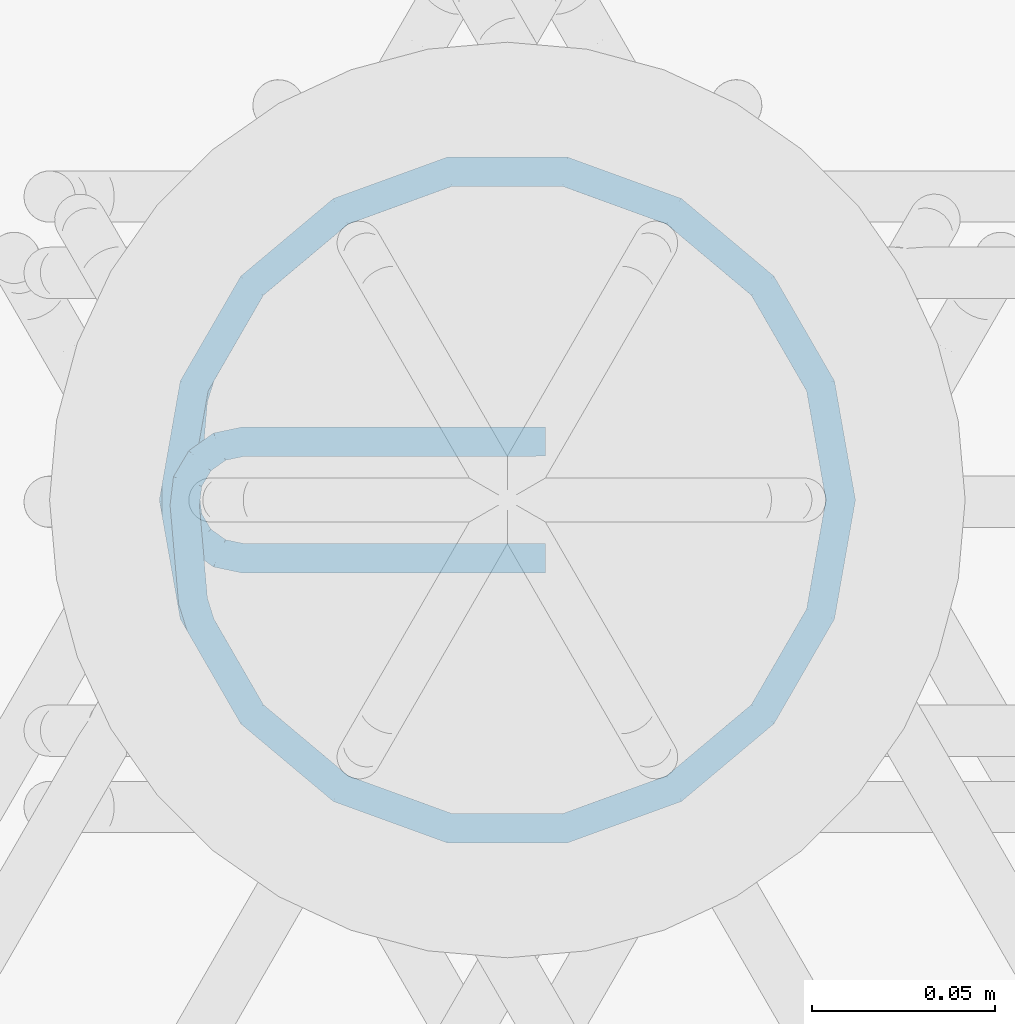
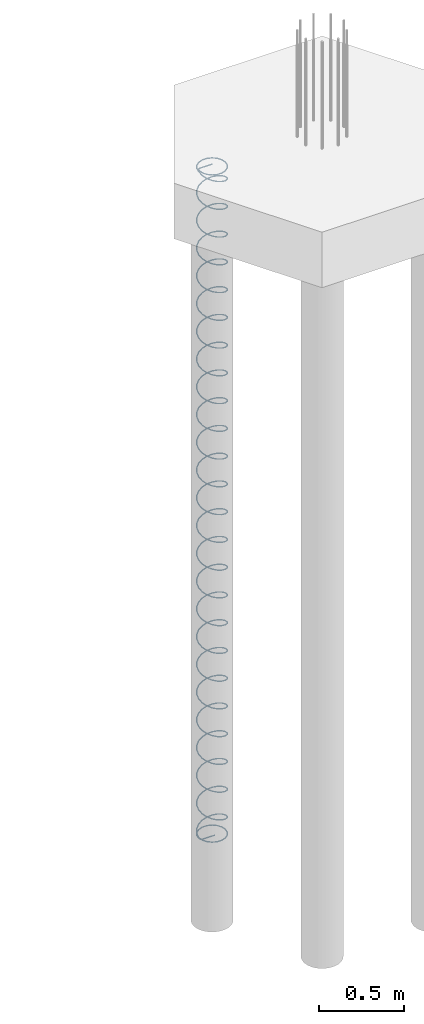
# One storey, part 10 of 23: 1 reinforcing bar.
"""IFC2X3 building model written with IfcOpenShell, lengths in metres."""

from ifc_helpers import new_model, entity, si_unit, direction, frame, origin, place, context, subcontext, project, spatial, shape, source, transform, mapped, element, save


model = new_model("IFC2X3")

# Units and contexts
model_context = context("Model", 3, precision=0.0, world=origin(), true_north=direction((0.0, 1.0)))
plan_context = context("Plan", 3, precision=0.0, world=origin(), true_north=direction((0.0, 1.0)))
body_context = subcontext(model_context, "Body", "Model", "MODEL_VIEW", scale=1.0)
ifc_project = project(units=[si_unit("LENGTHUNIT", "METRE"), si_unit("AREAUNIT", "SQUARE_METRE"), si_unit("VOLUMEUNIT", "CUBIC_METRE"), si_unit("PLANEANGLEUNIT", "RADIAN"), si_unit("THERMODYNAMICTEMPERATUREUNIT", "DEGREE_CELSIUS"), si_unit("FORCEUNIT", "NEWTON"), si_unit("MASSUNIT", "GRAM", prefix="KILO")], contexts=[model_context, plan_context])

# Site, building, storey
placement = place(None, origin())
site = spatial("IfcSite", under=ifc_project, at=placement, Name="Default Site", CompositionType="ELEMENT")
building = spatial("IfcBuilding", under=site, at=placement, Name="Default Building", CompositionType="ELEMENT")
storey_placement = place(placement, frame((0.0, 0.0, 0.0), z_axis=(1.0, 0.0, 0.0), x_axis=(0.0, 0.0, 1.0)))
storey = spatial("IfcBuildingStorey", under=building, at=storey_placement, Name="Piano 0", CompositionType="ELEMENT", Elevation=0.0)

# Reinforcing bar
shared_shape = source(origin(), body_context, None, "AdvancedSweptSolid", [
    entity("IfcSweptDiskSolid", entity("IfcCompositeCurve", [entity("IfcCompositeCurveSegment", "CONTINUOUS", True, entity("IfcPolyline", [entity("IfcCartesianPoint", [0.0, 0.0, 0.0]), entity("IfcCartesianPoint", [-0.08255, 0.0, 0.0]), entity("IfcCartesianPoint", [-0.088992, -0.001354, -1.3e-05]), entity("IfcCartesianPoint", [-0.094343, -0.005186, -4.9e-05]), entity("IfcCartesianPoint", [-0.097699, -0.010849, -0.000103]), entity("IfcCartesianPoint", [-0.09849, -0.017383, -0.000164]), entity("IfcCartesianPoint", [-0.096222, -0.043503, -0.000411]), entity("IfcCartesianPoint", [-0.094139, -0.050118, -0.000494]), entity("IfcCartesianPoint", [-0.080113, -0.074411, -0.000889]), entity("IfcCartesianPoint", [-0.055903, -0.094726, -0.001333]), entity("IfcCartesianPoint", [-0.026205, -0.105535, -0.001778]), entity("IfcCartesianPoint", [0.005399, -0.105535, -0.002222]), entity("IfcCartesianPoint", [0.035097, -0.094726, -0.002667]), entity("IfcCartesianPoint", [0.059307, -0.074411, -0.003111]), entity("IfcCartesianPoint", [0.075109, -0.047042, -0.003556]), entity("IfcCartesianPoint", [0.080597, -0.015918, -0.004]), entity("IfcCartesianPoint", [0.075109, 0.015206, -0.004444]), entity("IfcCartesianPoint", [0.059307, 0.042576, -0.004889]), entity("IfcCartesianPoint", [0.035097, 0.062891, -0.005333]), entity("IfcCartesianPoint", [0.005399, 0.0737, -0.005778]), entity("IfcCartesianPoint", [-0.026205, 0.0737, -0.006222]), entity("IfcCartesianPoint", [-0.055903, 0.062891, -0.006667]), entity("IfcCartesianPoint", [-0.080113, 0.042576, -0.007111]), entity("IfcCartesianPoint", [-0.095915, 0.015206, -0.007556]), entity("IfcCartesianPoint", [-0.100736, -0.012136, -0.007946]), entity("IfcCartesianPoint", [-0.100774, -0.019485, -0.009274]), entity("IfcCartesianPoint", [-0.095915, -0.047042, -0.019111]), entity("IfcCartesianPoint", [-0.080113, -0.074411, -0.030222]), entity("IfcCartesianPoint", [-0.055903, -0.094726, -0.041333]), entity("IfcCartesianPoint", [-0.026205, -0.105535, -0.052444]), entity("IfcCartesianPoint", [0.005399, -0.105535, -0.063556]), entity("IfcCartesianPoint", [0.035097, -0.094726, -0.074667]), entity("IfcCartesianPoint", [0.059307, -0.074411, -0.085778]), entity("IfcCartesianPoint", [0.075109, -0.047042, -0.096889]), entity("IfcCartesianPoint", [0.080597, -0.015918, -0.108]), entity("IfcCartesianPoint", [0.075109, 0.015206, -0.119111]), entity("IfcCartesianPoint", [0.059307, 0.042576, -0.130222]), entity("IfcCartesianPoint", [0.035097, 0.062891, -0.141333]), entity("IfcCartesianPoint", [0.005399, 0.0737, -0.152444]), entity("IfcCartesianPoint", [-0.026205, 0.0737, -0.163556]), entity("IfcCartesianPoint", [-0.055903, 0.062891, -0.174667]), entity("IfcCartesianPoint", [-0.080113, 0.042576, -0.185778]), entity("IfcCartesianPoint", [-0.095915, 0.015206, -0.196889]), entity("IfcCartesianPoint", [-0.101403, -0.015918, -0.208]), entity("IfcCartesianPoint", [-0.095915, -0.047042, -0.219111]), entity("IfcCartesianPoint", [-0.080113, -0.074411, -0.230222]), entity("IfcCartesianPoint", [-0.055903, -0.094726, -0.241333]), entity("IfcCartesianPoint", [-0.026205, -0.105535, -0.252444]), entity("IfcCartesianPoint", [0.005399, -0.105535, -0.263556]), entity("IfcCartesianPoint", [0.035097, -0.094726, -0.274667]), entity("IfcCartesianPoint", [0.059307, -0.074411, -0.285778]), entity("IfcCartesianPoint", [0.075109, -0.047042, -0.296889]), entity("IfcCartesianPoint", [0.080597, -0.015918, -0.308]), entity("IfcCartesianPoint", [0.075109, 0.015206, -0.319111]), entity("IfcCartesianPoint", [0.059307, 0.042576, -0.330222]), entity("IfcCartesianPoint", [0.035097, 0.062891, -0.341333]), entity("IfcCartesianPoint", [0.005399, 0.0737, -0.352444]), entity("IfcCartesianPoint", [-0.026205, 0.0737, -0.363556]), entity("IfcCartesianPoint", [-0.055903, 0.062891, -0.374667]), entity("IfcCartesianPoint", [-0.080113, 0.042576, -0.385778]), entity("IfcCartesianPoint", [-0.095915, 0.015206, -0.396889]), entity("IfcCartesianPoint", [-0.101403, -0.015918, -0.408]), entity("IfcCartesianPoint", [-0.095915, -0.047042, -0.419111]), entity("IfcCartesianPoint", [-0.080113, -0.074411, -0.430222]), entity("IfcCartesianPoint", [-0.055903, -0.094726, -0.441333]), entity("IfcCartesianPoint", [-0.026205, -0.105535, -0.452444]), entity("IfcCartesianPoint", [0.005399, -0.105535, -0.463556]), entity("IfcCartesianPoint", [0.035097, -0.094726, -0.474667]), entity("IfcCartesianPoint", [0.059307, -0.074411, -0.485778]), entity("IfcCartesianPoint", [0.075109, -0.047042, -0.496889]), entity("IfcCartesianPoint", [0.080597, -0.015918, -0.508]), entity("IfcCartesianPoint", [0.075109, 0.015206, -0.519111]), entity("IfcCartesianPoint", [0.059307, 0.042576, -0.530222]), entity("IfcCartesianPoint", [0.035097, 0.062891, -0.541333]), entity("IfcCartesianPoint", [0.005399, 0.0737, -0.552444]), entity("IfcCartesianPoint", [-0.026205, 0.0737, -0.563556]), entity("IfcCartesianPoint", [-0.055903, 0.062891, -0.574667]), entity("IfcCartesianPoint", [-0.080113, 0.042576, -0.585778]), entity("IfcCartesianPoint", [-0.095915, 0.015206, -0.596889]), entity("IfcCartesianPoint", [-0.101403, -0.015918, -0.608]), entity("IfcCartesianPoint", [-0.095915, -0.047042, -0.619111]), entity("IfcCartesianPoint", [-0.080113, -0.074411, -0.630222]), entity("IfcCartesianPoint", [-0.055903, -0.094726, -0.641333]), entity("IfcCartesianPoint", [-0.026205, -0.105535, -0.652444]), entity("IfcCartesianPoint", [0.005399, -0.105535, -0.663556]), entity("IfcCartesianPoint", [0.035097, -0.094726, -0.674667]), entity("IfcCartesianPoint", [0.059307, -0.074411, -0.685778]), entity("IfcCartesianPoint", [0.075109, -0.047042, -0.696889]), entity("IfcCartesianPoint", [0.080597, -0.015918, -0.708]), entity("IfcCartesianPoint", [0.075109, 0.015206, -0.719111]), entity("IfcCartesianPoint", [0.059307, 0.042576, -0.730222]), entity("IfcCartesianPoint", [0.035097, 0.062891, -0.741333]), entity("IfcCartesianPoint", [0.005399, 0.0737, -0.752444]), entity("IfcCartesianPoint", [-0.026205, 0.0737, -0.763556]), entity("IfcCartesianPoint", [-0.055903, 0.062891, -0.774667]), entity("IfcCartesianPoint", [-0.080113, 0.042576, -0.785778]), entity("IfcCartesianPoint", [-0.095915, 0.015206, -0.796889]), entity("IfcCartesianPoint", [-0.101403, -0.015918, -0.808]), entity("IfcCartesianPoint", [-0.095915, -0.047042, -0.819111]), entity("IfcCartesianPoint", [-0.080113, -0.074411, -0.830222]), entity("IfcCartesianPoint", [-0.055903, -0.094726, -0.841333]), entity("IfcCartesianPoint", [-0.026205, -0.105535, -0.852444]), entity("IfcCartesianPoint", [0.005399, -0.105535, -0.863556]), entity("IfcCartesianPoint", [0.035097, -0.094726, -0.874667]), entity("IfcCartesianPoint", [0.059307, -0.074411, -0.885778]), entity("IfcCartesianPoint", [0.075109, -0.047042, -0.896889]), entity("IfcCartesianPoint", [0.080597, -0.015918, -0.908]), entity("IfcCartesianPoint", [0.075109, 0.015206, -0.919111]), entity("IfcCartesianPoint", [0.059307, 0.042576, -0.930222]), entity("IfcCartesianPoint", [0.035097, 0.062891, -0.941333]), entity("IfcCartesianPoint", [0.005399, 0.0737, -0.952444]), entity("IfcCartesianPoint", [-0.026205, 0.0737, -0.963556]), entity("IfcCartesianPoint", [-0.055903, 0.062891, -0.974667]), entity("IfcCartesianPoint", [-0.080113, 0.042576, -0.985778]), entity("IfcCartesianPoint", [-0.095915, 0.015206, -0.996889]), entity("IfcCartesianPoint", [-0.101403, -0.015918, -1.008]), entity("IfcCartesianPoint", [-0.095915, -0.047042, -1.019111]), entity("IfcCartesianPoint", [-0.080113, -0.074411, -1.030222]), entity("IfcCartesianPoint", [-0.055903, -0.094726, -1.041333]), entity("IfcCartesianPoint", [-0.026205, -0.105535, -1.052444]), entity("IfcCartesianPoint", [0.005399, -0.105535, -1.063556]), entity("IfcCartesianPoint", [0.035097, -0.094726, -1.074667]), entity("IfcCartesianPoint", [0.059307, -0.074411, -1.085778]), entity("IfcCartesianPoint", [0.075109, -0.047042, -1.096889]), entity("IfcCartesianPoint", [0.080597, -0.015918, -1.108]), entity("IfcCartesianPoint", [0.075109, 0.015206, -1.119111]), entity("IfcCartesianPoint", [0.059307, 0.042576, -1.130222]), entity("IfcCartesianPoint", [0.035097, 0.062891, -1.141333]), entity("IfcCartesianPoint", [0.005399, 0.0737, -1.152444]), entity("IfcCartesianPoint", [-0.026205, 0.0737, -1.163556]), entity("IfcCartesianPoint", [-0.055903, 0.062891, -1.174667]), entity("IfcCartesianPoint", [-0.080113, 0.042576, -1.185778]), entity("IfcCartesianPoint", [-0.095915, 0.015206, -1.196889]), entity("IfcCartesianPoint", [-0.101403, -0.015918, -1.208]), entity("IfcCartesianPoint", [-0.095915, -0.047042, -1.219111]), entity("IfcCartesianPoint", [-0.080113, -0.074411, -1.230222]), entity("IfcCartesianPoint", [-0.055903, -0.094726, -1.241333]), entity("IfcCartesianPoint", [-0.026205, -0.105535, -1.252444]), entity("IfcCartesianPoint", [0.005399, -0.105535, -1.263556]), entity("IfcCartesianPoint", [0.035097, -0.094726, -1.274667]), entity("IfcCartesianPoint", [0.059307, -0.074411, -1.285778]), entity("IfcCartesianPoint", [0.075109, -0.047042, -1.296889]), entity("IfcCartesianPoint", [0.080597, -0.015918, -1.308]), entity("IfcCartesianPoint", [0.075109, 0.015206, -1.319111]), entity("IfcCartesianPoint", [0.059307, 0.042576, -1.330222]), entity("IfcCartesianPoint", [0.035097, 0.062891, -1.341333]), entity("IfcCartesianPoint", [0.005399, 0.0737, -1.352444]), entity("IfcCartesianPoint", [-0.026205, 0.0737, -1.363556]), entity("IfcCartesianPoint", [-0.055903, 0.062891, -1.374667]), entity("IfcCartesianPoint", [-0.080113, 0.042576, -1.385778]), entity("IfcCartesianPoint", [-0.095915, 0.015206, -1.396889]), entity("IfcCartesianPoint", [-0.101403, -0.015918, -1.408]), entity("IfcCartesianPoint", [-0.095915, -0.047042, -1.419111]), entity("IfcCartesianPoint", [-0.080113, -0.074411, -1.430222]), entity("IfcCartesianPoint", [-0.055903, -0.094726, -1.441333]), entity("IfcCartesianPoint", [-0.026205, -0.105535, -1.452444]), entity("IfcCartesianPoint", [0.005399, -0.105535, -1.463556]), entity("IfcCartesianPoint", [0.035097, -0.094726, -1.474667]), entity("IfcCartesianPoint", [0.059307, -0.074411, -1.485778]), entity("IfcCartesianPoint", [0.075109, -0.047042, -1.496889]), entity("IfcCartesianPoint", [0.080597, -0.015918, -1.508]), entity("IfcCartesianPoint", [0.075109, 0.015206, -1.519111]), entity("IfcCartesianPoint", [0.059307, 0.042576, -1.530222]), entity("IfcCartesianPoint", [0.035097, 0.062891, -1.541333]), entity("IfcCartesianPoint", [0.005399, 0.0737, -1.552444]), entity("IfcCartesianPoint", [-0.026205, 0.0737, -1.563556]), entity("IfcCartesianPoint", [-0.055903, 0.062891, -1.574667]), entity("IfcCartesianPoint", [-0.080113, 0.042576, -1.585778]), entity("IfcCartesianPoint", [-0.095915, 0.015206, -1.596889]), entity("IfcCartesianPoint", [-0.101403, -0.015918, -1.608]), entity("IfcCartesianPoint", [-0.095915, -0.047042, -1.619111]), entity("IfcCartesianPoint", [-0.080113, -0.074411, -1.630222]), entity("IfcCartesianPoint", [-0.055903, -0.094726, -1.641333]), entity("IfcCartesianPoint", [-0.026205, -0.105535, -1.652444]), entity("IfcCartesianPoint", [0.005399, -0.105535, -1.663556]), entity("IfcCartesianPoint", [0.035097, -0.094726, -1.674667]), entity("IfcCartesianPoint", [0.059307, -0.074411, -1.685778]), entity("IfcCartesianPoint", [0.075109, -0.047042, -1.696889]), entity("IfcCartesianPoint", [0.080597, -0.015918, -1.708]), entity("IfcCartesianPoint", [0.075109, 0.015206, -1.719111]), entity("IfcCartesianPoint", [0.059307, 0.042576, -1.730222]), entity("IfcCartesianPoint", [0.035097, 0.062891, -1.741333]), entity("IfcCartesianPoint", [0.005399, 0.0737, -1.752444]), entity("IfcCartesianPoint", [-0.026205, 0.0737, -1.763556]), entity("IfcCartesianPoint", [-0.055903, 0.062891, -1.774667]), entity("IfcCartesianPoint", [-0.080113, 0.042576, -1.785778]), entity("IfcCartesianPoint", [-0.095915, 0.015206, -1.796889]), entity("IfcCartesianPoint", [-0.101403, -0.015918, -1.808]), entity("IfcCartesianPoint", [-0.095915, -0.047042, -1.819111]), entity("IfcCartesianPoint", [-0.080113, -0.074411, -1.830222]), entity("IfcCartesianPoint", [-0.055903, -0.094726, -1.841333]), entity("IfcCartesianPoint", [-0.026205, -0.105535, -1.852444]), entity("IfcCartesianPoint", [0.005399, -0.105535, -1.863556]), entity("IfcCartesianPoint", [0.035097, -0.094726, -1.874667]), entity("IfcCartesianPoint", [0.059307, -0.074411, -1.885778]), entity("IfcCartesianPoint", [0.075109, -0.047042, -1.896889]), entity("IfcCartesianPoint", [0.080597, -0.015918, -1.908]), entity("IfcCartesianPoint", [0.075109, 0.015206, -1.919111]), entity("IfcCartesianPoint", [0.059307, 0.042576, -1.930222]), entity("IfcCartesianPoint", [0.035097, 0.062891, -1.941333]), entity("IfcCartesianPoint", [0.005399, 0.0737, -1.952444]), entity("IfcCartesianPoint", [-0.026205, 0.0737, -1.963556]), entity("IfcCartesianPoint", [-0.055903, 0.062891, -1.974667]), entity("IfcCartesianPoint", [-0.080113, 0.042576, -1.985778]), entity("IfcCartesianPoint", [-0.095915, 0.015206, -1.996889]), entity("IfcCartesianPoint", [-0.101403, -0.015918, -2.008]), entity("IfcCartesianPoint", [-0.095915, -0.047042, -2.019111]), entity("IfcCartesianPoint", [-0.080113, -0.074411, -2.030222]), entity("IfcCartesianPoint", [-0.055903, -0.094726, -2.041333]), entity("IfcCartesianPoint", [-0.026205, -0.105535, -2.052444]), entity("IfcCartesianPoint", [0.005399, -0.105535, -2.063556]), entity("IfcCartesianPoint", [0.035097, -0.094726, -2.074667]), entity("IfcCartesianPoint", [0.059307, -0.074411, -2.085778]), entity("IfcCartesianPoint", [0.075109, -0.047042, -2.096889]), entity("IfcCartesianPoint", [0.080597, -0.015918, -2.108]), entity("IfcCartesianPoint", [0.075109, 0.015206, -2.119111]), entity("IfcCartesianPoint", [0.059307, 0.042576, -2.130222]), entity("IfcCartesianPoint", [0.035097, 0.062891, -2.141333]), entity("IfcCartesianPoint", [0.005399, 0.0737, -2.152444]), entity("IfcCartesianPoint", [-0.026205, 0.0737, -2.163556]), entity("IfcCartesianPoint", [-0.055903, 0.062891, -2.174667]), entity("IfcCartesianPoint", [-0.080113, 0.042576, -2.185778]), entity("IfcCartesianPoint", [-0.095915, 0.015206, -2.196889]), entity("IfcCartesianPoint", [-0.101403, -0.015918, -2.208]), entity("IfcCartesianPoint", [-0.095915, -0.047042, -2.219111]), entity("IfcCartesianPoint", [-0.080113, -0.074411, -2.230222]), entity("IfcCartesianPoint", [-0.055903, -0.094726, -2.241333]), entity("IfcCartesianPoint", [-0.026205, -0.105535, -2.252444]), entity("IfcCartesianPoint", [0.005399, -0.105535, -2.263556]), entity("IfcCartesianPoint", [0.035097, -0.094726, -2.274667]), entity("IfcCartesianPoint", [0.059307, -0.074411, -2.285778]), entity("IfcCartesianPoint", [0.075109, -0.047042, -2.296889]), entity("IfcCartesianPoint", [0.080597, -0.015918, -2.308]), entity("IfcCartesianPoint", [0.075109, 0.015206, -2.319111]), entity("IfcCartesianPoint", [0.059307, 0.042576, -2.330222]), entity("IfcCartesianPoint", [0.035097, 0.062891, -2.341333]), entity("IfcCartesianPoint", [0.005399, 0.0737, -2.352444]), entity("IfcCartesianPoint", [-0.026205, 0.0737, -2.363556]), entity("IfcCartesianPoint", [-0.055903, 0.062891, -2.374667]), entity("IfcCartesianPoint", [-0.080113, 0.042576, -2.385778]), entity("IfcCartesianPoint", [-0.095915, 0.015206, -2.396889]), entity("IfcCartesianPoint", [-0.101403, -0.015918, -2.408]), entity("IfcCartesianPoint", [-0.095915, -0.047042, -2.419111]), entity("IfcCartesianPoint", [-0.080113, -0.074411, -2.430222]), entity("IfcCartesianPoint", [-0.055903, -0.094726, -2.441333]), entity("IfcCartesianPoint", [-0.026205, -0.105535, -2.452444]), entity("IfcCartesianPoint", [0.005399, -0.105535, -2.463556]), entity("IfcCartesianPoint", [0.035097, -0.094726, -2.474667]), entity("IfcCartesianPoint", [0.059307, -0.074411, -2.485778]), entity("IfcCartesianPoint", [0.075109, -0.047042, -2.496889]), entity("IfcCartesianPoint", [0.080597, -0.015918, -2.508]), entity("IfcCartesianPoint", [0.075109, 0.015206, -2.519111]), entity("IfcCartesianPoint", [0.059307, 0.042576, -2.530222]), entity("IfcCartesianPoint", [0.035097, 0.062891, -2.541333]), entity("IfcCartesianPoint", [0.005399, 0.0737, -2.552444]), entity("IfcCartesianPoint", [-0.026205, 0.0737, -2.563556]), entity("IfcCartesianPoint", [-0.055903, 0.062891, -2.574667]), entity("IfcCartesianPoint", [-0.080113, 0.042576, -2.585778]), entity("IfcCartesianPoint", [-0.095915, 0.015206, -2.596889]), entity("IfcCartesianPoint", [-0.101403, -0.015918, -2.608]), entity("IfcCartesianPoint", [-0.095915, -0.047042, -2.619111]), entity("IfcCartesianPoint", [-0.080113, -0.074411, -2.630222]), entity("IfcCartesianPoint", [-0.055903, -0.094726, -2.641333]), entity("IfcCartesianPoint", [-0.026205, -0.105535, -2.652444]), entity("IfcCartesianPoint", [0.005399, -0.105535, -2.663556]), entity("IfcCartesianPoint", [0.035097, -0.094726, -2.674667]), entity("IfcCartesianPoint", [0.059307, -0.074411, -2.685778]), entity("IfcCartesianPoint", [0.075109, -0.047042, -2.696889]), entity("IfcCartesianPoint", [0.080597, -0.015918, -2.708]), entity("IfcCartesianPoint", [0.075109, 0.015206, -2.719111]), entity("IfcCartesianPoint", [0.059307, 0.042576, -2.730222]), entity("IfcCartesianPoint", [0.035097, 0.062891, -2.741333]), entity("IfcCartesianPoint", [0.005399, 0.0737, -2.752444]), entity("IfcCartesianPoint", [-0.026205, 0.0737, -2.763556]), entity("IfcCartesianPoint", [-0.055903, 0.062891, -2.774667]), entity("IfcCartesianPoint", [-0.080113, 0.042576, -2.785778]), entity("IfcCartesianPoint", [-0.095915, 0.015206, -2.796889]), entity("IfcCartesianPoint", [-0.101403, -0.015918, -2.808]), entity("IfcCartesianPoint", [-0.095915, -0.047042, -2.819111]), entity("IfcCartesianPoint", [-0.080113, -0.074411, -2.830222]), entity("IfcCartesianPoint", [-0.055903, -0.094726, -2.841333]), entity("IfcCartesianPoint", [-0.026205, -0.105535, -2.852444]), entity("IfcCartesianPoint", [0.005399, -0.105535, -2.863556]), entity("IfcCartesianPoint", [0.035097, -0.094726, -2.874667]), entity("IfcCartesianPoint", [0.059307, -0.074411, -2.885778]), entity("IfcCartesianPoint", [0.075109, -0.047042, -2.896889]), entity("IfcCartesianPoint", [0.080597, -0.015918, -2.908]), entity("IfcCartesianPoint", [0.075109, 0.015206, -2.919111]), entity("IfcCartesianPoint", [0.059307, 0.042576, -2.930222]), entity("IfcCartesianPoint", [0.035097, 0.062891, -2.941333]), entity("IfcCartesianPoint", [0.005399, 0.0737, -2.952444]), entity("IfcCartesianPoint", [-0.026205, 0.0737, -2.963556]), entity("IfcCartesianPoint", [-0.055903, 0.062891, -2.974667]), entity("IfcCartesianPoint", [-0.080113, 0.042576, -2.985778]), entity("IfcCartesianPoint", [-0.095915, 0.015206, -2.996889]), entity("IfcCartesianPoint", [-0.101403, -0.015918, -3.008]), entity("IfcCartesianPoint", [-0.095915, -0.047042, -3.019111]), entity("IfcCartesianPoint", [-0.080113, -0.074411, -3.030222]), entity("IfcCartesianPoint", [-0.055903, -0.094726, -3.041333]), entity("IfcCartesianPoint", [-0.026205, -0.105535, -3.052444]), entity("IfcCartesianPoint", [0.005399, -0.105535, -3.063556]), entity("IfcCartesianPoint", [0.035097, -0.094726, -3.074667]), entity("IfcCartesianPoint", [0.059307, -0.074411, -3.085778]), entity("IfcCartesianPoint", [0.075109, -0.047042, -3.096889]), entity("IfcCartesianPoint", [0.080597, -0.015918, -3.108]), entity("IfcCartesianPoint", [0.075109, 0.015206, -3.119111]), entity("IfcCartesianPoint", [0.059307, 0.042576, -3.130222]), entity("IfcCartesianPoint", [0.035097, 0.062891, -3.141333]), entity("IfcCartesianPoint", [0.005399, 0.0737, -3.152444]), entity("IfcCartesianPoint", [-0.026205, 0.0737, -3.163556]), entity("IfcCartesianPoint", [-0.055903, 0.062891, -3.174667]), entity("IfcCartesianPoint", [-0.080113, 0.042576, -3.185778]), entity("IfcCartesianPoint", [-0.095915, 0.015206, -3.196889]), entity("IfcCartesianPoint", [-0.101403, -0.015918, -3.208]), entity("IfcCartesianPoint", [-0.095915, -0.047042, -3.219111]), entity("IfcCartesianPoint", [-0.080113, -0.074411, -3.230222]), entity("IfcCartesianPoint", [-0.055903, -0.094726, -3.241333]), entity("IfcCartesianPoint", [-0.026205, -0.105535, -3.252444]), entity("IfcCartesianPoint", [0.005399, -0.105535, -3.263556]), entity("IfcCartesianPoint", [0.035097, -0.094726, -3.274667]), entity("IfcCartesianPoint", [0.059307, -0.074411, -3.285778]), entity("IfcCartesianPoint", [0.075109, -0.047042, -3.296889]), entity("IfcCartesianPoint", [0.080597, -0.015918, -3.308]), entity("IfcCartesianPoint", [0.075109, 0.015206, -3.319111]), entity("IfcCartesianPoint", [0.059307, 0.042576, -3.330222]), entity("IfcCartesianPoint", [0.035097, 0.062891, -3.341333]), entity("IfcCartesianPoint", [0.005399, 0.0737, -3.352444]), entity("IfcCartesianPoint", [-0.026205, 0.0737, -3.363556]), entity("IfcCartesianPoint", [-0.055903, 0.062891, -3.374667]), entity("IfcCartesianPoint", [-0.080113, 0.042576, -3.385778]), entity("IfcCartesianPoint", [-0.095915, 0.015206, -3.396889]), entity("IfcCartesianPoint", [-0.101403, -0.015918, -3.408]), entity("IfcCartesianPoint", [-0.095915, -0.047042, -3.419111]), entity("IfcCartesianPoint", [-0.080113, -0.074411, -3.430222]), entity("IfcCartesianPoint", [-0.055903, -0.094726, -3.441333]), entity("IfcCartesianPoint", [-0.026205, -0.105535, -3.452444]), entity("IfcCartesianPoint", [0.005399, -0.105535, -3.463556]), entity("IfcCartesianPoint", [0.035097, -0.094726, -3.474667]), entity("IfcCartesianPoint", [0.059307, -0.074411, -3.485778]), entity("IfcCartesianPoint", [0.075109, -0.047042, -3.496889]), entity("IfcCartesianPoint", [0.080597, -0.015918, -3.508]), entity("IfcCartesianPoint", [0.075109, 0.015206, -3.519111]), entity("IfcCartesianPoint", [0.059307, 0.042576, -3.530222]), entity("IfcCartesianPoint", [0.035097, 0.062891, -3.541333]), entity("IfcCartesianPoint", [0.005399, 0.0737, -3.552444]), entity("IfcCartesianPoint", [-0.026205, 0.0737, -3.563556]), entity("IfcCartesianPoint", [-0.055903, 0.062891, -3.574667]), entity("IfcCartesianPoint", [-0.080113, 0.042576, -3.585778]), entity("IfcCartesianPoint", [-0.095915, 0.015206, -3.596889]), entity("IfcCartesianPoint", [-0.101403, -0.015918, -3.608]), entity("IfcCartesianPoint", [-0.095915, -0.047042, -3.619111]), entity("IfcCartesianPoint", [-0.080113, -0.074411, -3.630222]), entity("IfcCartesianPoint", [-0.055903, -0.094726, -3.641333]), entity("IfcCartesianPoint", [-0.026205, -0.105535, -3.652444]), entity("IfcCartesianPoint", [0.005399, -0.105535, -3.663556]), entity("IfcCartesianPoint", [0.035097, -0.094726, -3.674667]), entity("IfcCartesianPoint", [0.059307, -0.074411, -3.685778]), entity("IfcCartesianPoint", [0.075109, -0.047042, -3.696889]), entity("IfcCartesianPoint", [0.080597, -0.015918, -3.708]), entity("IfcCartesianPoint", [0.075109, 0.015206, -3.719111]), entity("IfcCartesianPoint", [0.059307, 0.042576, -3.730222]), entity("IfcCartesianPoint", [0.035097, 0.062891, -3.741333]), entity("IfcCartesianPoint", [0.005399, 0.0737, -3.752444]), entity("IfcCartesianPoint", [-0.026205, 0.0737, -3.763556]), entity("IfcCartesianPoint", [-0.055903, 0.062891, -3.774667]), entity("IfcCartesianPoint", [-0.080113, 0.042576, -3.785778]), entity("IfcCartesianPoint", [-0.095915, 0.015206, -3.796889]), entity("IfcCartesianPoint", [-0.101403, -0.015918, -3.808]), entity("IfcCartesianPoint", [-0.095915, -0.047042, -3.819111]), entity("IfcCartesianPoint", [-0.080113, -0.074411, -3.830222]), entity("IfcCartesianPoint", [-0.055903, -0.094726, -3.841333]), entity("IfcCartesianPoint", [-0.026205, -0.105535, -3.852444]), entity("IfcCartesianPoint", [0.005399, -0.105535, -3.863556]), entity("IfcCartesianPoint", [0.035097, -0.094726, -3.874667]), entity("IfcCartesianPoint", [0.059307, -0.074411, -3.885778]), entity("IfcCartesianPoint", [0.075109, -0.047042, -3.896889]), entity("IfcCartesianPoint", [0.080597, -0.015918, -3.908]), entity("IfcCartesianPoint", [0.075109, 0.015206, -3.919111]), entity("IfcCartesianPoint", [0.059307, 0.042576, -3.930222]), entity("IfcCartesianPoint", [0.035097, 0.062891, -3.941333]), entity("IfcCartesianPoint", [0.005399, 0.0737, -3.952444]), entity("IfcCartesianPoint", [-0.026205, 0.0737, -3.963556]), entity("IfcCartesianPoint", [-0.055903, 0.062891, -3.974667]), entity("IfcCartesianPoint", [-0.080113, 0.042576, -3.985778]), entity("IfcCartesianPoint", [-0.095915, 0.015206, -3.996889]), entity("IfcCartesianPoint", [-0.101403, -0.015918, -4.008]), entity("IfcCartesianPoint", [-0.095915, -0.047042, -4.019111]), entity("IfcCartesianPoint", [-0.080113, -0.074411, -4.030222]), entity("IfcCartesianPoint", [-0.055903, -0.094726, -4.041333]), entity("IfcCartesianPoint", [-0.026205, -0.105535, -4.052444]), entity("IfcCartesianPoint", [0.005399, -0.105535, -4.063556]), entity("IfcCartesianPoint", [0.035097, -0.094726, -4.074667]), entity("IfcCartesianPoint", [0.059307, -0.074411, -4.085778]), entity("IfcCartesianPoint", [0.075109, -0.047042, -4.096889]), entity("IfcCartesianPoint", [0.080597, -0.015918, -4.108]), entity("IfcCartesianPoint", [0.075109, 0.015206, -4.119111]), entity("IfcCartesianPoint", [0.059307, 0.042576, -4.130222]), entity("IfcCartesianPoint", [0.035097, 0.062891, -4.141333]), entity("IfcCartesianPoint", [0.005399, 0.0737, -4.152444]), entity("IfcCartesianPoint", [-0.026205, 0.0737, -4.163556]), entity("IfcCartesianPoint", [-0.055903, 0.062891, -4.174667]), entity("IfcCartesianPoint", [-0.080113, 0.042576, -4.185778]), entity("IfcCartesianPoint", [-0.095915, 0.015206, -4.196889]), entity("IfcCartesianPoint", [-0.101403, -0.015918, -4.208]), entity("IfcCartesianPoint", [-0.095915, -0.047042, -4.219111]), entity("IfcCartesianPoint", [-0.080113, -0.074411, -4.230222]), entity("IfcCartesianPoint", [-0.055903, -0.094726, -4.241333]), entity("IfcCartesianPoint", [-0.026205, -0.105535, -4.252444]), entity("IfcCartesianPoint", [0.005399, -0.105535, -4.263556]), entity("IfcCartesianPoint", [0.035097, -0.094726, -4.274667]), entity("IfcCartesianPoint", [0.059307, -0.074411, -4.285778]), entity("IfcCartesianPoint", [0.075109, -0.047042, -4.296889]), entity("IfcCartesianPoint", [0.080597, -0.015918, -4.308]), entity("IfcCartesianPoint", [0.075109, 0.015206, -4.319111]), entity("IfcCartesianPoint", [0.059307, 0.042576, -4.330222]), entity("IfcCartesianPoint", [0.035097, 0.062891, -4.341333]), entity("IfcCartesianPoint", [0.005399, 0.0737, -4.352444]), entity("IfcCartesianPoint", [-0.026205, 0.0737, -4.363556]), entity("IfcCartesianPoint", [-0.055903, 0.062891, -4.374667]), entity("IfcCartesianPoint", [-0.080113, 0.042576, -4.385778]), entity("IfcCartesianPoint", [-0.095915, 0.015206, -4.396889]), entity("IfcCartesianPoint", [-0.101403, -0.015918, -4.408]), entity("IfcCartesianPoint", [-0.095915, -0.047042, -4.419111]), entity("IfcCartesianPoint", [-0.080113, -0.074411, -4.430222]), entity("IfcCartesianPoint", [-0.055903, -0.094726, -4.441333]), entity("IfcCartesianPoint", [-0.026205, -0.105535, -4.452444]), entity("IfcCartesianPoint", [0.005399, -0.105535, -4.463556]), entity("IfcCartesianPoint", [0.035097, -0.094726, -4.474667]), entity("IfcCartesianPoint", [0.059307, -0.074411, -4.485778]), entity("IfcCartesianPoint", [0.075109, -0.047042, -4.496889]), entity("IfcCartesianPoint", [0.080597, -0.015918, -4.508]), entity("IfcCartesianPoint", [0.075109, 0.015206, -4.519111]), entity("IfcCartesianPoint", [0.059307, 0.042576, -4.530222]), entity("IfcCartesianPoint", [0.035097, 0.062891, -4.541333]), entity("IfcCartesianPoint", [0.005399, 0.0737, -4.552444]), entity("IfcCartesianPoint", [-0.026205, 0.0737, -4.563556]), entity("IfcCartesianPoint", [-0.055903, 0.062891, -4.574667]), entity("IfcCartesianPoint", [-0.080113, 0.042576, -4.585778]), entity("IfcCartesianPoint", [-0.095915, 0.015206, -4.596889]), entity("IfcCartesianPoint", [-0.101403, -0.015918, -4.608]), entity("IfcCartesianPoint", [-0.095915, -0.047042, -4.619111]), entity("IfcCartesianPoint", [-0.080113, -0.074411, -4.630222]), entity("IfcCartesianPoint", [-0.055903, -0.094726, -4.641333]), entity("IfcCartesianPoint", [-0.026205, -0.105535, -4.652444]), entity("IfcCartesianPoint", [0.005399, -0.105535, -4.663556]), entity("IfcCartesianPoint", [0.035097, -0.094726, -4.674667]), entity("IfcCartesianPoint", [0.059307, -0.074411, -4.685778]), entity("IfcCartesianPoint", [0.075109, -0.047042, -4.696889]), entity("IfcCartesianPoint", [0.080597, -0.015918, -4.708]), entity("IfcCartesianPoint", [0.075109, 0.015206, -4.719111]), entity("IfcCartesianPoint", [0.059307, 0.042576, -4.730222]), entity("IfcCartesianPoint", [0.035097, 0.062891, -4.741333]), entity("IfcCartesianPoint", [0.005399, 0.0737, -4.752444]), entity("IfcCartesianPoint", [-0.026205, 0.0737, -4.763556]), entity("IfcCartesianPoint", [-0.055903, 0.062891, -4.774667]), entity("IfcCartesianPoint", [-0.080113, 0.042576, -4.785778]), entity("IfcCartesianPoint", [-0.095915, 0.015206, -4.796889]), entity("IfcCartesianPoint", [-0.100774, -0.01235, -4.806726]), entity("IfcCartesianPoint", [-0.100736, -0.019699, -4.808054]), entity("IfcCartesianPoint", [-0.095915, -0.047042, -4.808444]), entity("IfcCartesianPoint", [-0.080113, -0.074411, -4.808889]), entity("IfcCartesianPoint", [-0.055903, -0.094726, -4.809333]), entity("IfcCartesianPoint", [-0.026205, -0.105535, -4.809778]), entity("IfcCartesianPoint", [0.005399, -0.105535, -4.810222]), entity("IfcCartesianPoint", [0.035097, -0.094726, -4.810667]), entity("IfcCartesianPoint", [0.059307, -0.074411, -4.811111]), entity("IfcCartesianPoint", [0.075109, -0.047042, -4.811556]), entity("IfcCartesianPoint", [0.080597, -0.015918, -4.812]), entity("IfcCartesianPoint", [0.075109, 0.015206, -4.812444]), entity("IfcCartesianPoint", [0.059307, 0.042576, -4.812889]), entity("IfcCartesianPoint", [0.035097, 0.062891, -4.813333]), entity("IfcCartesianPoint", [0.005399, 0.0737, -4.813778]), entity("IfcCartesianPoint", [-0.026205, 0.0737, -4.814222]), entity("IfcCartesianPoint", [-0.055903, 0.062891, -4.814667]), entity("IfcCartesianPoint", [-0.080113, 0.042576, -4.815111]), entity("IfcCartesianPoint", [-0.094139, 0.018282, -4.815506]), entity("IfcCartesianPoint", [-0.096222, 0.011667, -4.815589]), entity("IfcCartesianPoint", [-0.09849, -0.014452, -4.815836]), entity("IfcCartesianPoint", [-0.097699, -0.020986, -4.815897]), entity("IfcCartesianPoint", [-0.094343, -0.026649, -4.815951]), entity("IfcCartesianPoint", [-0.088992, -0.030481, -4.815987]), entity("IfcCartesianPoint", [-0.08255, -0.031835, -4.816]), entity("IfcCartesianPoint", [0.0, -0.031835, -4.816])]))], False), 0.004, 0.0, 0.0),
])
element("IfcReinforcingBar", 1, at=placement, inside=storey, Name="Arm Staffa; Palo:3 Filo:3 [Piano:0]", BarLength=15.841196, BarRole="SHEAR", BarSurface="TEXTURED", NominalDiameter=0.008, shapes=[
    shape(body_context, None, "MappedRepresentation", [mapped(shared_shape, transform((7.635403, 0.665918, -0.492)))]),
])

save(model, "model.ifc")
